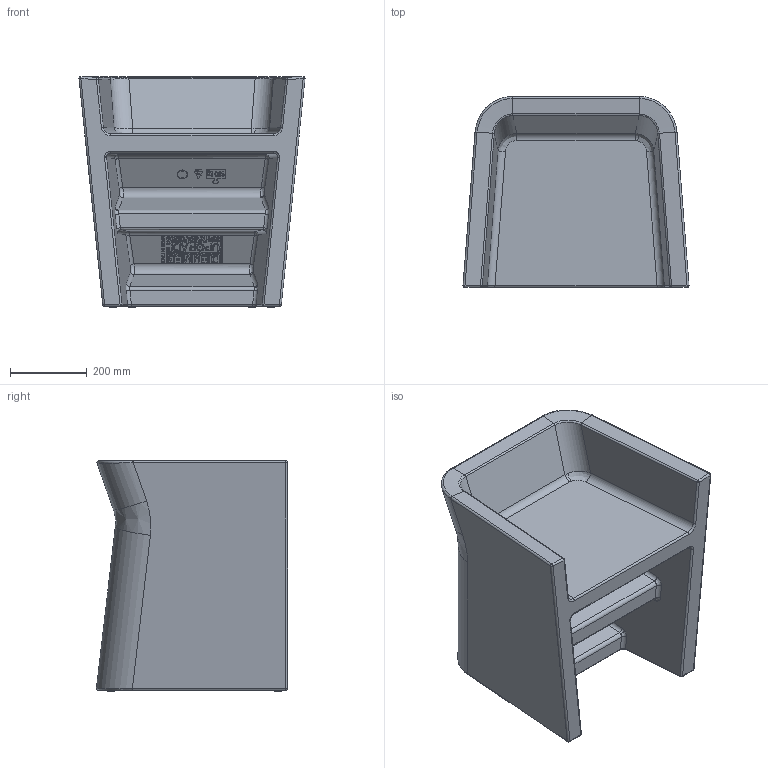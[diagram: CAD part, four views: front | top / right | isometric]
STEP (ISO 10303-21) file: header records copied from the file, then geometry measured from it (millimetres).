
FILE_DESCRIPTION(('STEP AP203'),'1');
FILE_NAME('UPPZ10PXX.step','2018-03-27T06:19:58',(' '),(' '),'Spatial InterOp 3D',' ',' ');
FILE_SCHEMA(('CONFIG_CONTROL_DESIGN'));
Length unit declared in the file: millimetre
Products named in the file (1): 1
Bounding box: 590.13 x 499.37 x 602.1 mm (x, y, z)
Volume: 11125323.8 mm3; surface area: 4252833.5 mm2
Topology: 5 solids, 5 shells, 2880 faces, 7917 edges, 5235 vertices
Faces by surface type: plane 1413, bspline 1255, cylinder 115, extrusion 60, offset 25, cone 8, torus 4
Full cylindrical faces by diameter (mm): 14.5 x4, 16.364 x8, 17.5 x4, 18 x4, 25 x1, 26 x1
Entity records: 101902 total; most frequent: CARTESIAN_POINT 41218, ORIENTED_EDGE 15720, EDGE_CURVE 7860, DIRECTION 6867, VERTEX_POINT 5219, B_SPLINE_CURVE_WITH_KNOTS 4389, VECTOR 3365, LINE 3305
